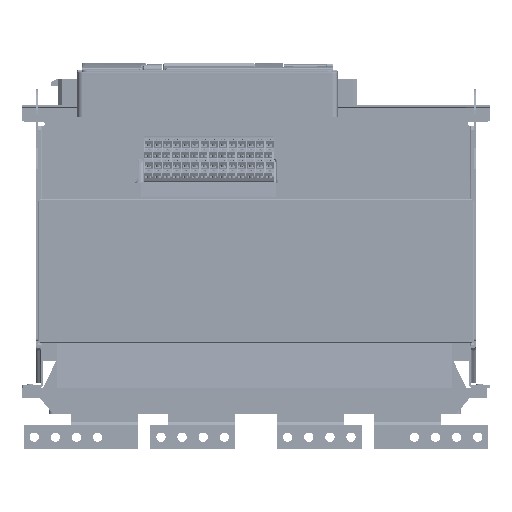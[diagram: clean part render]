
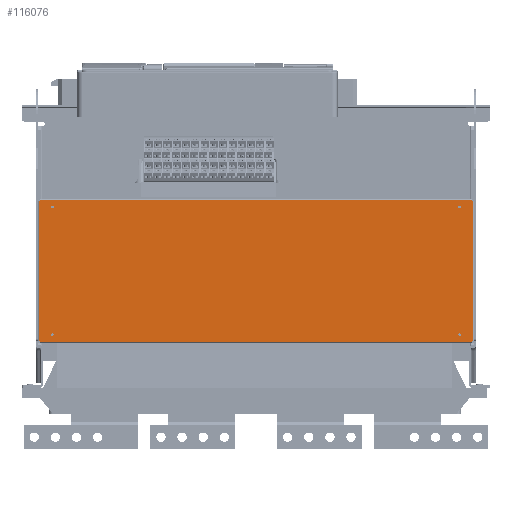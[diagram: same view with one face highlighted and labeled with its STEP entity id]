
A CAD part, front view. The second image highlights one B-rep face of the part: STEP entity #116076.
In plain terms, the highlighted planar face has unit normal (0, -1, 0) as drawn and (0, 0, -1) by its records, which use the part's own axes.
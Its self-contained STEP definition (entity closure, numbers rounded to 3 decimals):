
#5354=FACE_BOUND('',#14503,.T.);
#5355=FACE_BOUND('',#14504,.T.);
#5356=FACE_BOUND('',#14505,.T.);
#5357=FACE_BOUND('',#14506,.T.);
#8015=FACE_OUTER_BOUND('',#14502,.T.);
#14502=EDGE_LOOP('',(#86884,#86885,#86886,#86887,#86888,#86889,#86890,#86891,
#86892,#86893,#86894,#86895));
#14503=EDGE_LOOP('',(#86896));
#14504=EDGE_LOOP('',(#86897));
#14505=EDGE_LOOP('',(#86898));
#14506=EDGE_LOOP('',(#86899));
#19804=CIRCLE('',#123783,1.6);
#19805=CIRCLE('',#123784,1.6);
#19806=CIRCLE('',#123785,1.6);
#19807=CIRCLE('',#123786,1.6);
#27417=LINE('',#175561,#39886);
#27418=LINE('',#175563,#39887);
#27419=LINE('',#175565,#39888);
#27420=LINE('',#175567,#39889);
#27421=LINE('',#175569,#39890);
#27422=LINE('',#175571,#39891);
#27423=LINE('',#175573,#39892);
#27424=LINE('',#175575,#39893);
#27425=LINE('',#175577,#39894);
#27426=LINE('',#175579,#39895);
#27427=LINE('',#175581,#39896);
#27428=LINE('',#175582,#39897);
#39886=VECTOR('',#141439,512.);
#39887=VECTOR('',#141440,1.);
#39888=VECTOR('',#141441,1.);
#39889=VECTOR('',#141442,166.);
#39890=VECTOR('',#141443,1.);
#39891=VECTOR('',#141444,1.);
#39892=VECTOR('',#141445,512.);
#39893=VECTOR('',#141446,1.);
#39894=VECTOR('',#141447,1.);
#39895=VECTOR('',#141448,166.);
#39896=VECTOR('',#141449,1.);
#39897=VECTOR('',#141450,1.);
#51089=VERTEX_POINT('',#175559);
#51090=VERTEX_POINT('',#175560);
#51091=VERTEX_POINT('',#175562);
#51092=VERTEX_POINT('',#175564);
#51093=VERTEX_POINT('',#175566);
#51094=VERTEX_POINT('',#175568);
#51095=VERTEX_POINT('',#175570);
#51096=VERTEX_POINT('',#175572);
#51097=VERTEX_POINT('',#175574);
#51098=VERTEX_POINT('',#175576);
#51099=VERTEX_POINT('',#175578);
#51100=VERTEX_POINT('',#175580);
#51101=VERTEX_POINT('',#175583);
#51102=VERTEX_POINT('',#175585);
#51103=VERTEX_POINT('',#175587);
#51104=VERTEX_POINT('',#175589);
#64153=EDGE_CURVE('',#51089,#51090,#27417,.T.);
#64154=EDGE_CURVE('',#51090,#51091,#27418,.T.);
#64155=EDGE_CURVE('',#51092,#51091,#27419,.T.);
#64156=EDGE_CURVE('',#51092,#51093,#27420,.T.);
#64157=EDGE_CURVE('',#51093,#51094,#27421,.T.);
#64158=EDGE_CURVE('',#51095,#51094,#27422,.T.);
#64159=EDGE_CURVE('',#51095,#51096,#27423,.T.);
#64160=EDGE_CURVE('',#51096,#51097,#27424,.T.);
#64161=EDGE_CURVE('',#51098,#51097,#27425,.T.);
#64162=EDGE_CURVE('',#51098,#51099,#27426,.T.);
#64163=EDGE_CURVE('',#51099,#51100,#27427,.T.);
#64164=EDGE_CURVE('',#51089,#51100,#27428,.T.);
#64165=EDGE_CURVE('',#51101,#51101,#19804,.T.);
#64166=EDGE_CURVE('',#51102,#51102,#19805,.T.);
#64167=EDGE_CURVE('',#51103,#51103,#19806,.T.);
#64168=EDGE_CURVE('',#51104,#51104,#19807,.T.);
#86884=ORIENTED_EDGE('',*,*,#64153,.T.);
#86885=ORIENTED_EDGE('',*,*,#64154,.T.);
#86886=ORIENTED_EDGE('',*,*,#64155,.F.);
#86887=ORIENTED_EDGE('',*,*,#64156,.T.);
#86888=ORIENTED_EDGE('',*,*,#64157,.T.);
#86889=ORIENTED_EDGE('',*,*,#64158,.F.);
#86890=ORIENTED_EDGE('',*,*,#64159,.T.);
#86891=ORIENTED_EDGE('',*,*,#64160,.T.);
#86892=ORIENTED_EDGE('',*,*,#64161,.F.);
#86893=ORIENTED_EDGE('',*,*,#64162,.T.);
#86894=ORIENTED_EDGE('',*,*,#64163,.T.);
#86895=ORIENTED_EDGE('',*,*,#64164,.F.);
#86896=ORIENTED_EDGE('',*,*,#64165,.F.);
#86897=ORIENTED_EDGE('',*,*,#64166,.F.);
#86898=ORIENTED_EDGE('',*,*,#64167,.F.);
#86899=ORIENTED_EDGE('',*,*,#64168,.F.);
#111540=PLANE('',#123782);
#116076=ADVANCED_FACE('',(#8015,#5354,#5355,#5356,#5357),#111540,.F.);
#123782=AXIS2_PLACEMENT_3D('',#175558,#141437,#141438);
#123783=AXIS2_PLACEMENT_3D('',#175584,#141451,#141452);
#123784=AXIS2_PLACEMENT_3D('',#175586,#141453,#141454);
#123785=AXIS2_PLACEMENT_3D('',#175588,#141455,#141456);
#123786=AXIS2_PLACEMENT_3D('',#175590,#141457,#141458);
#141437=DIRECTION('center_axis',(0.,0.,1.));
#141438=DIRECTION('ref_axis',(1.,0.,0.));
#141439=DIRECTION('',(-1.,0.,0.));
#141440=DIRECTION('',(0.,1.,0.));
#141441=DIRECTION('',(1.,0.,0.));
#141442=DIRECTION('',(0.,1.,0.));
#141443=DIRECTION('',(1.,0.,0.));
#141444=DIRECTION('',(0.,-1.,0.));
#141445=DIRECTION('',(1.,0.,0.));
#141446=DIRECTION('',(0.,-1.,0.));
#141447=DIRECTION('',(-1.,0.,0.));
#141448=DIRECTION('',(0.,-1.,0.));
#141449=DIRECTION('',(-1.,0.,0.));
#141450=DIRECTION('',(0.,1.,0.));
#141451=DIRECTION('center_axis',(0.,0.,-1.));
#141452=DIRECTION('ref_axis',(-1.,0.,0.));
#141453=DIRECTION('center_axis',(0.,0.,-1.));
#141454=DIRECTION('ref_axis',(-1.,0.,0.));
#141455=DIRECTION('center_axis',(0.,0.,-1.));
#141456=DIRECTION('ref_axis',(-1.,0.,0.));
#141457=DIRECTION('center_axis',(0.,0.,-1.));
#141458=DIRECTION('ref_axis',(-1.,0.,0.));
#175558=CARTESIAN_POINT('Origin',(0.,0.,0.));
#175559=CARTESIAN_POINT('',(256.,-84.,0.));
#175560=CARTESIAN_POINT('',(-256.,-84.,0.));
#175561=CARTESIAN_POINT('',(256.,-84.,0.));
#175562=CARTESIAN_POINT('',(-256.,-83.,0.));
#175563=CARTESIAN_POINT('',(-256.,-84.,0.));
#175564=CARTESIAN_POINT('',(-257.,-83.,0.));
#175565=CARTESIAN_POINT('',(-257.,-83.,0.));
#175566=CARTESIAN_POINT('',(-257.,83.,0.));
#175567=CARTESIAN_POINT('',(-257.,-83.,0.));
#175568=CARTESIAN_POINT('',(-256.,83.,0.));
#175569=CARTESIAN_POINT('',(-257.,83.,0.));
#175570=CARTESIAN_POINT('',(-256.,84.,0.));
#175571=CARTESIAN_POINT('',(-256.,84.,0.));
#175572=CARTESIAN_POINT('',(256.,84.,0.));
#175573=CARTESIAN_POINT('',(-256.,84.,0.));
#175574=CARTESIAN_POINT('',(256.,83.,0.));
#175575=CARTESIAN_POINT('',(256.,84.,0.));
#175576=CARTESIAN_POINT('',(257.,83.,0.));
#175577=CARTESIAN_POINT('',(257.,83.,0.));
#175578=CARTESIAN_POINT('',(257.,-83.,0.));
#175579=CARTESIAN_POINT('',(257.,83.,0.));
#175580=CARTESIAN_POINT('',(256.,-83.,0.));
#175581=CARTESIAN_POINT('',(257.,-83.,0.));
#175582=CARTESIAN_POINT('',(256.,-84.,0.));
#175583=CARTESIAN_POINT('',(-242.6,75.5,0.));
#175584=CARTESIAN_POINT('Origin',(-241.,75.5,0.));
#175585=CARTESIAN_POINT('',(239.4,75.5,0.));
#175586=CARTESIAN_POINT('Origin',(241.,75.5,0.));
#175587=CARTESIAN_POINT('',(239.4,-75.5,0.));
#175588=CARTESIAN_POINT('Origin',(241.,-75.5,0.));
#175589=CARTESIAN_POINT('',(-242.6,-75.5,0.));
#175590=CARTESIAN_POINT('Origin',(-241.,-75.5,0.));
